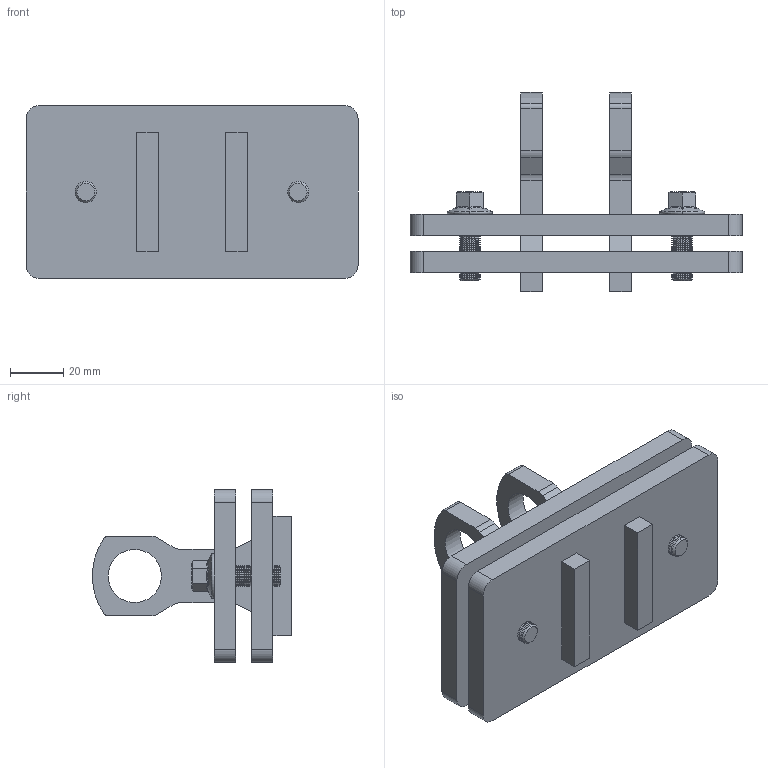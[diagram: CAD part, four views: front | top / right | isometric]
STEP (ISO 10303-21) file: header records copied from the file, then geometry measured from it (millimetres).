
FILE_DESCRIPTION (( 'STEP AP203' ), '1' );
FILE_NAME ('90｡聆ｪｽﾓ.STEP', '2022-02-10T03:17:13', ( '' ), ( '' ), 'SwSTEP 2.0', 'SolidWorks 2017', '' );
FILE_SCHEMA (( 'CONFIG_CONTROL_DESIGN' ));
Length unit declared in the file: millimetre
Products named in the file (5): 90∼蛌諉嶺啣; 90∼蛌諉菁啣; 90｡聆ｪｽﾓ; M8X25鞠褒楊擘醱_GB_FASTENER_BOLT_HFBSS M8X35-S; 90∼蛌諉揤啣
Assembly tree (6 placements, depth 2):
  90｡聆ｪｽﾓ
    90∼蛌諉菁啣
    90∼蛌諉嶺啣  x2
    90∼蛌諉揤啣
    M8X25鞠褒楊擘醱_GB_FASTENER_BOLT_HFBSS M8X35-S  x2
Bounding box: 125 x 74.91 x 65 mm (x, y, z)
Volume: 141736.9 mm3; surface area: 51908.7 mm2
Topology: 6 solids, 6 shells, 514 faces, 1112 edges, 612 vertices
Faces by surface type: cone 256, cylinder 166, plane 76, bspline 12, torus 4
Entity records: 8349 total; most frequent: CARTESIAN_POINT 1492, DIRECTION 1426, ORIENTED_EDGE 1240, EDGE_CURVE 620, AXIS2_PLACEMENT_3D 546, VERTEX_POINT 348, VECTOR 334, LINE 334
